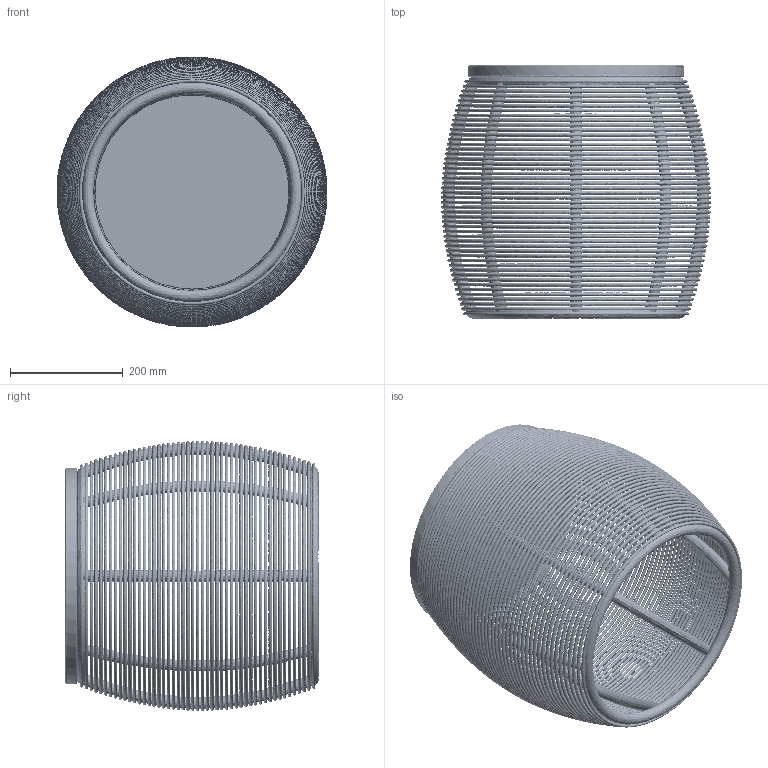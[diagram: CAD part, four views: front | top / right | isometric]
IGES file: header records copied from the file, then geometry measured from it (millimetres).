
Global section: file name: VincentSheppard_ViviSidetable46; native system: unknown; preprocessor: unknown; author: ict@vincentsheppard.com; organization: unknown; date: 20180518.140953; units: millimetre
Bounding box: 480.02 x 450 x 480.01 mm (x, y, z)
Volume: 6142708 mm3; surface area: 1913627.5 mm2
Topology: 60 solids, 60 shells, 80 faces, 137 edges, 75 vertices
Faces by surface type: bspline 80
